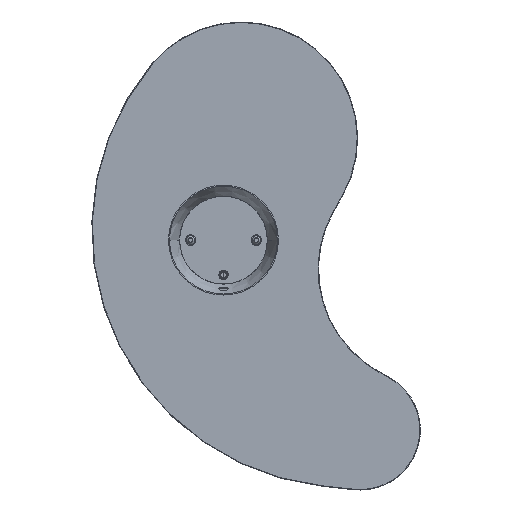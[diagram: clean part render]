
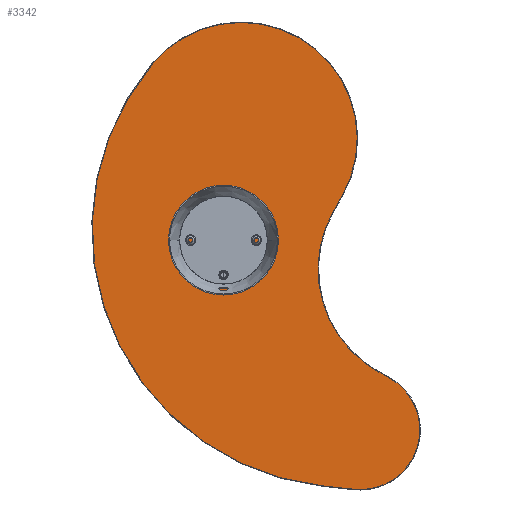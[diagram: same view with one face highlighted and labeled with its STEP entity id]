
A CAD part, top view. The second image highlights one B-rep face of the part: STEP entity #3342.
In plain terms, the highlighted planar face has unit normal (0, 0, 1).
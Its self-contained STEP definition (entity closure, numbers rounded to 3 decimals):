
#367 = ORIENTED_EDGE ( 'NONE', *, *, #7966, .T. ) ;
#584 = AXIS2_PLACEMENT_3D ( 'NONE', #3849, #9829, #10829 ) ;
#623 = CARTESIAN_POINT ( 'NONE',  ( 130.156, -183.244, -55.476 ) ) ;
#669 = AXIS2_PLACEMENT_3D ( 'NONE', #8444, #3289, #7473 ) ;
#751 = DIRECTION ( 'NONE',  ( 0., 0., -1. ) ) ;
#1026 = CARTESIAN_POINT ( 'NONE',  ( 16.304, 119.714, -55.476 ) ) ;
#1045 = VERTEX_POINT ( 'NONE', #9036 ) ;
#1061 = EDGE_LOOP ( 'NONE', ( #3350, #2617 ) ) ;
#1381 = DIRECTION ( 'NONE',  ( 0., 1., 0. ) ) ;
#1557 = FACE_BOUND ( 'NONE', #1061, .T. ) ;
#1946 = VERTEX_POINT ( 'NONE', #2503 ) ;
#2020 = DIRECTION ( 'NONE',  ( 0.492, 0.871, 0. ) ) ;
#2173 = DIRECTION ( 'NONE',  ( 0.994, -0.106, 0. ) ) ;
#2370 = CARTESIAN_POINT ( 'NONE',  ( 191.273, -62.884, -55.476 ) ) ;
#2503 = CARTESIAN_POINT ( 'NONE',  ( 141.443, 108.974, -55.476 ) ) ;
#2617 = ORIENTED_EDGE ( 'NONE', *, *, #2945, .T. ) ;
#2651 = DIRECTION ( 'NONE',  ( 0., 0., -1. ) ) ;
#2945 = EDGE_CURVE ( 'NONE', #7640, #6506, #10268, .T. ) ;
#2976 = CARTESIAN_POINT ( 'NONE',  ( 170.222, -123.656, -55.476 ) ) ;
#3122 = CIRCLE ( 'NONE', #669, 123.5 ) ;
#3131 = LINE ( 'NONE', #6603, #3487 ) ;
#3152 = CARTESIAN_POINT ( 'NONE',  ( 151.043, 125.966, -55.476 ) ) ;
#3213 = EDGE_CURVE ( 'NONE', #1045, #10995, #10615, .T. ) ;
#3289 = DIRECTION ( 'NONE',  ( 0., 0., 1. ) ) ;
#3342 = ADVANCED_FACE ( 'NONE', ( #5089, #1557 ), #4982, .F. ) ;
#3350 = ORIENTED_EDGE ( 'NONE', *, *, #3858, .T. ) ;
#3391 = ORIENTED_EDGE ( 'NONE', *, *, #9627, .T. ) ;
#3425 = AXIS2_PLACEMENT_3D ( 'NONE', #1026, #5280, #5223 ) ;
#3481 = CIRCLE ( 'NONE', #4574, 63.5 ) ;
#3487 = VECTOR ( 'NONE', #2173, 1000. ) ;
#3716 = CARTESIAN_POINT ( 'NONE',  ( 141.485, 109.047, -55.476 ) ) ;
#3849 = CARTESIAN_POINT ( 'NONE',  ( 159.256, 89.709, -55.476 ) ) ;
#3858 = EDGE_CURVE ( 'NONE', #6506, #7640, #4009, .T. ) ;
#3954 = DIRECTION ( 'NONE',  ( -0.881, 0.473, 0. ) ) ;
#4009 = CIRCLE ( 'NONE', #7961, 2.5 ) ;
#4074 = LINE ( 'NONE', #10883, #5696 ) ;
#4472 = EDGE_CURVE ( 'NONE', #7976, #9819, #4519, .T. ) ;
#4519 = CIRCLE ( 'NONE', #5985, 123.5 ) ;
#4574 = AXIS2_PLACEMENT_3D ( 'NONE', #2976, #10880, #1381 ) ;
#4660 = EDGE_CURVE ( 'NONE', #6694, #1946, #9401, .T. ) ;
#4982 = PLANE ( 'NONE',  #5261 ) ;
#5072 = ORIENTED_EDGE ( 'NONE', *, *, #6110, .T. ) ;
#5089 = FACE_OUTER_BOUND ( 'NONE', #7989, .T. ) ;
#5223 = DIRECTION ( 'NONE',  ( 0., 1., 0. ) ) ;
#5261 = AXIS2_PLACEMENT_3D ( 'NONE', #10384, #2651, #6137 ) ;
#5280 = DIRECTION ( 'NONE',  ( 0., 0., -1. ) ) ;
#5696 = VECTOR ( 'NONE', #3954, 1000. ) ;
#5844 = VECTOR ( 'NONE', #2020, 1000. ) ;
#5855 = EDGE_CURVE ( 'NONE', #10834, #8295, #3481, .T. ) ;
#5985 = AXIS2_PLACEMENT_3D ( 'NONE', #8732, #7829, #6279 ) ;
#6110 = EDGE_CURVE ( 'NONE', #10995, #10834, #3131, .T. ) ;
#6137 = DIRECTION ( 'NONE',  ( 0., 1., 0. ) ) ;
#6143 = CARTESIAN_POINT ( 'NONE',  ( 16.304, 122.214, -55.476 ) ) ;
#6279 = DIRECTION ( 'NONE',  ( 0., 1., 0. ) ) ;
#6415 = ORIENTED_EDGE ( 'NONE', *, *, #4660, .T. ) ;
#6423 = ORIENTED_EDGE ( 'NONE', *, *, #5855, .T. ) ;
#6479 = EDGE_CURVE ( 'NONE', #9819, #1045, #3122, .T. ) ;
#6506 = VERTEX_POINT ( 'NONE', #6806 ) ;
#6603 = CARTESIAN_POINT ( 'NONE',  ( 224.85, -193.34, -55.476 ) ) ;
#6694 = VERTEX_POINT ( 'NONE', #2370 ) ;
#6806 = CARTESIAN_POINT ( 'NONE',  ( 16.304, 117.214, -55.476 ) ) ;
#6874 = CARTESIAN_POINT ( 'NONE',  ( 43.475, 310.14, -55.476 ) ) ;
#7280 = DIRECTION ( 'NONE',  ( 0., 1., 0. ) ) ;
#7473 = DIRECTION ( 'NONE',  ( 0., 1., 0. ) ) ;
#7478 = CARTESIAN_POINT ( 'NONE',  ( 163.49, -186.798, -55.476 ) ) ;
#7488 = ORIENTED_EDGE ( 'NONE', *, *, #3213, .T. ) ;
#7533 = CARTESIAN_POINT ( 'NONE',  ( 250.521, 47.448, -55.476 ) ) ;
#7640 = VERTEX_POINT ( 'NONE', #6143 ) ;
#7829 = DIRECTION ( 'NONE',  ( 0., 0., 1. ) ) ;
#7961 = AXIS2_PLACEMENT_3D ( 'NONE', #9924, #8417, #7280 ) ;
#7966 = EDGE_CURVE ( 'NONE', #8295, #6694, #4074, .T. ) ;
#7976 = VERTEX_POINT ( 'NONE', #3152 ) ;
#7989 = EDGE_LOOP ( 'NONE', ( #6423, #367, #6415, #3391, #9857, #9592, #7488, #5072 ) ) ;
#8295 = VERTEX_POINT ( 'NONE', #8343 ) ;
#8343 = CARTESIAN_POINT ( 'NONE',  ( 200.263, -67.712, -55.476 ) ) ;
#8417 = DIRECTION ( 'NONE',  ( 0., 0., -1. ) ) ;
#8444 = CARTESIAN_POINT ( 'NONE',  ( 43.475, 186.64, -55.476 ) ) ;
#8732 = CARTESIAN_POINT ( 'NONE',  ( 43.475, 186.64, -55.476 ) ) ;
#9036 = CARTESIAN_POINT ( 'NONE',  ( -51.221, 265.918, -55.476 ) ) ;
#9401 = CIRCLE ( 'NONE', #10966, 125.234 ) ;
#9592 = ORIENTED_EDGE ( 'NONE', *, *, #6479, .T. ) ;
#9627 = EDGE_CURVE ( 'NONE', #1946, #7976, #9751, .T. ) ;
#9751 = LINE ( 'NONE', #3716, #5844 ) ;
#9819 = VERTEX_POINT ( 'NONE', #6874 ) ;
#9829 = DIRECTION ( 'NONE',  ( 0., 0., 1. ) ) ;
#9857 = ORIENTED_EDGE ( 'NONE', *, *, #4472, .T. ) ;
#9924 = CARTESIAN_POINT ( 'NONE',  ( 16.304, 119.714, -55.476 ) ) ;
#10268 = CIRCLE ( 'NONE', #3425, 2.5 ) ;
#10384 = CARTESIAN_POINT ( 'NONE',  ( 250.521, 47.448, -55.476 ) ) ;
#10615 = CIRCLE ( 'NONE', #584, 274.5 ) ;
#10829 = DIRECTION ( 'NONE',  ( 0., 1., 0. ) ) ;
#10834 = VERTEX_POINT ( 'NONE', #7478 ) ;
#10880 = DIRECTION ( 'NONE',  ( 0., 0., 1. ) ) ;
#10883 = CARTESIAN_POINT ( 'NONE',  ( 191.273, -62.884, -55.476 ) ) ;
#10966 = AXIS2_PLACEMENT_3D ( 'NONE', #7533, #751, #11022 ) ;
#10995 = VERTEX_POINT ( 'NONE', #623 ) ;
#11022 = DIRECTION ( 'NONE',  ( 0., 1., 0. ) ) ;
